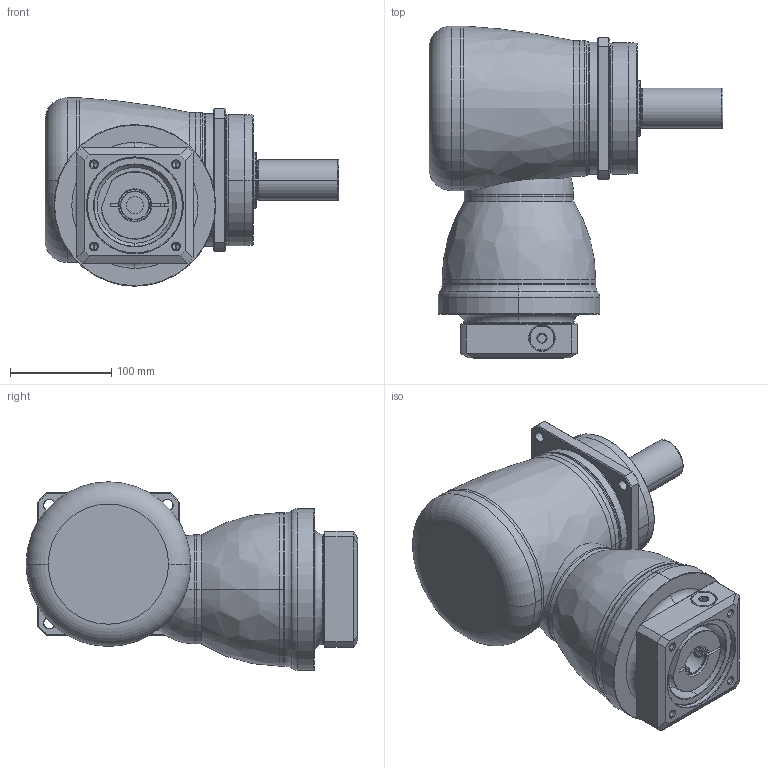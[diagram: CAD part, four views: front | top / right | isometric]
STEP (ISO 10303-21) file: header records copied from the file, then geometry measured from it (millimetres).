
FILE_DESCRIPTION((''),'2;1');
FILE_NAME('KF140_1ST_28-P0409600101_ASM','2016-06-22T',('d01943'),(''),'PRO/ENGINEER BY PARAMETRIC TECHNOLOGY CORPORATION, 2008410','PRO/ENGINEER BY PARAMETRIC TECHNOLOGY CORPORATION, 2008410','');
FILE_SCHEMA(('CONFIG_CONTROL_DESIGN'));
Length unit declared in the file: millimetre
Products named in the file (11): P1008500002; P1804500001; P0915500001; P1315500001; P1007500001; P1318500101; P0409600101; P0503600010; P0912501201; 21711418017; KF140_1ST_28-P0409600101_ASM
Assembly tree (10 placements, depth 2):
  KF140_1ST_28-P0409600101_ASM
    P1008500002
    P1804500001
    P0915500001
    P1315500001
    P1007500001
    P1318500101
    P0409600101
    P0503600010
    P0912501201
    21711418017
Bounding box: 291 x 328.5 x 186.5 mm (x, y, z)
Volume: 4533086.3 mm3; surface area: 504895 mm2
Topology: 11 solids, 11 shells, 436 faces, 966 edges, 569 vertices
Faces by surface type: cylinder 140, cone 116, plane 93, torus 64, bspline 21, sphere 2
Entity records: 17015 total; most frequent: CARTESIAN_POINT 7125, DIRECTION 2195, ORIENTED_EDGE 1896, EDGE_CURVE 948, AXIS2_PLACEMENT_3D 932, VERTEX_POINT 569, EDGE_LOOP 497, CIRCLE 496
